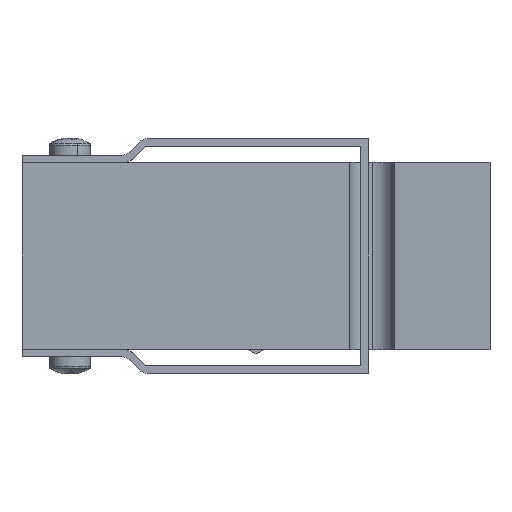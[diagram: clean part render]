
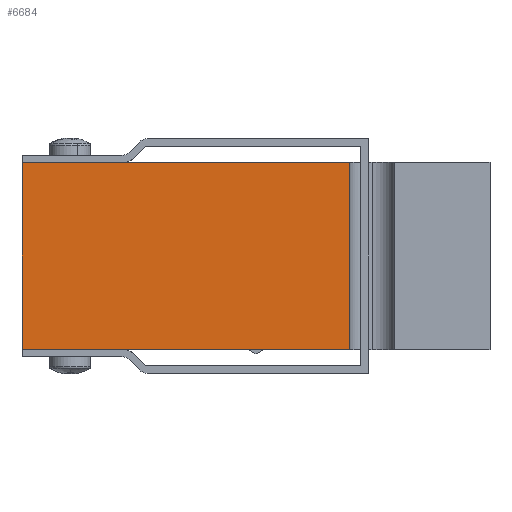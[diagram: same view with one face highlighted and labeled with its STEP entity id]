
A CAD part, left-side view. The second image highlights one B-rep face of the part: STEP entity #6684.
In plain terms, the highlighted planar face has unit normal (-1, 0, 0).
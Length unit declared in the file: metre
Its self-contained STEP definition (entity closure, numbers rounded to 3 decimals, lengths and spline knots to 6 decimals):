
#222 = AXIS2_PLACEMENT_3D ( 'NONE', #4884, #4949, #4857 ) ;
#491 = VERTEX_POINT ( 'NONE', #6142 ) ;
#512 = VERTEX_POINT ( 'NONE', #5820 ) ;
#518 = VERTEX_POINT ( 'NONE', #5844 ) ;
#521 = VERTEX_POINT ( 'NONE', #5989 ) ;
#540 = VERTEX_POINT ( 'NONE', #6192 ) ;
#554 = VERTEX_POINT ( 'NONE', #5862 ) ;
#564 = VERTEX_POINT ( 'NONE', #6091 ) ;
#936 = CARTESIAN_POINT ( 'NONE',  ( 0., 0.0635, 0.02535 ) ) ;
#1539 = AXIS2_PLACEMENT_3D ( 'NONE', #2175, #2176, #2177 ) ;
#1953 = FACE_OUTER_BOUND ( 'NONE', #5331, .T. ) ;
#2163 = PLANE ( 'NONE',  #1539 ) ;
#2175 = CARTESIAN_POINT ( 'NONE',  ( 0., 0., 0.0254 ) ) ;
#2176 = DIRECTION ( 'NONE',  ( 1., 0., 0. ) ) ;
#2177 = DIRECTION ( 'NONE',  ( 0., 0., -1. ) ) ;
#2857 = LINE ( 'NONE', #3426, #2870 ) ;
#2870 = VECTOR ( 'NONE', #3415, 1. ) ;
#2882 = LINE ( 'NONE', #3447, #2893 ) ;
#2893 = VECTOR ( 'NONE', #3461, 1. ) ;
#3415 = DIRECTION ( 'NONE',  ( 0., -1., 0. ) ) ;
#3426 = CARTESIAN_POINT ( 'NONE',  ( 0., 0., 0.00005 ) ) ;
#3447 = CARTESIAN_POINT ( 'NONE',  ( 0., 0., 0.02535 ) ) ;
#3461 = DIRECTION ( 'NONE',  ( 0., -1., 0. ) ) ;
#3567 = AXIS2_PLACEMENT_3D ( 'NONE', #3826, #3827, #3828 ) ;
#3826 = CARTESIAN_POINT ( 'NONE',  ( 0., 0.05, 0.02785 ) ) ;
#3827 = DIRECTION ( 'NONE',  ( -1., 0., 0. ) ) ;
#3828 = DIRECTION ( 'NONE',  ( 0., 0., -1. ) ) ;
#3829 = CARTESIAN_POINT ( 'NONE',  ( 0., 0.019, 0. ) ) ;
#3830 = DIRECTION ( 'NONE',  ( 0., 0., 1. ) ) ;
#3867 = CARTESIAN_POINT ( 'NONE',  ( 0., 0., 0. ) ) ;
#3868 = DIRECTION ( 'NONE',  ( 0., -1., 0. ) ) ;
#3917 = CARTESIAN_POINT ( 'NONE',  ( 0., 0., 0.0254 ) ) ;
#3918 = DIRECTION ( 'NONE',  ( 0., -1., 0. ) ) ;
#4079 = CIRCLE ( 'NONE', #3567, 0.0025 ) ;
#4081 = LINE ( 'NONE', #3829, #4084 ) ;
#4084 = VECTOR ( 'NONE', #3830, 1. ) ;
#4102 = LINE ( 'NONE', #3867, #4104 ) ;
#4104 = VECTOR ( 'NONE', #3868, 1. ) ;
#4132 = LINE ( 'NONE', #3917, #4133 ) ;
#4133 = VECTOR ( 'NONE', #3918, 1. ) ;
#4448 = EDGE_CURVE ( 'NONE', #5761, #540, #5653, .T. ) ;
#4595 = EDGE_CURVE ( 'NONE', #564, #521, #5672, .T. ) ;
#4857 = DIRECTION ( 'NONE',  ( 0., 0., -1. ) ) ;
#4884 = CARTESIAN_POINT ( 'NONE',  ( 0., 0.05, -0.00245 ) ) ;
#4949 = DIRECTION ( 'NONE',  ( 1., 0., 0. ) ) ;
#5331 = EDGE_LOOP ( 'NONE', ( #6302, #6403, #6448, #6272, #6353, #6291, #6336, #6216 ) ) ;
#5653 = LINE ( 'NONE', #6102, #5656 ) ;
#5656 = VECTOR ( 'NONE', #5914, 1. ) ;
#5672 = CIRCLE ( 'NONE', #222, 0.0025 ) ;
#5761 = VERTEX_POINT ( 'NONE', #936 ) ;
#5820 = CARTESIAN_POINT ( 'NONE',  ( 0., 0.049503, 0.0254 ) ) ;
#5844 = CARTESIAN_POINT ( 'NONE',  ( 0., 0.05, 0.02535 ) ) ;
#5862 = CARTESIAN_POINT ( 'NONE',  ( 0., 0.019, 0.0254 ) ) ;
#5914 = DIRECTION ( 'NONE',  ( 0., 0., -1. ) ) ;
#5989 = CARTESIAN_POINT ( 'NONE',  ( 0., 0.049503, 0. ) ) ;
#6091 = CARTESIAN_POINT ( 'NONE',  ( 0., 0.05, 0.00005 ) ) ;
#6102 = CARTESIAN_POINT ( 'NONE',  ( 0., 0.0635, 0.0254 ) ) ;
#6142 = CARTESIAN_POINT ( 'NONE',  ( 0., 0.019, 0. ) ) ;
#6192 = CARTESIAN_POINT ( 'NONE',  ( 0., 0.0635, 0.00005 ) ) ;
#6216 = ORIENTED_EDGE ( 'NONE', *, *, #7381, .F. ) ;
#6272 = ORIENTED_EDGE ( 'NONE', *, *, #4595, .T. ) ;
#6291 = ORIENTED_EDGE ( 'NONE', *, *, #7383, .T. ) ;
#6302 = ORIENTED_EDGE ( 'NONE', *, *, #7304, .F. ) ;
#6336 = ORIENTED_EDGE ( 'NONE', *, *, #7419, .F. ) ;
#6353 = ORIENTED_EDGE ( 'NONE', *, *, #7399, .T. ) ;
#6403 = ORIENTED_EDGE ( 'NONE', *, *, #4448, .T. ) ;
#6448 = ORIENTED_EDGE ( 'NONE', *, *, #7290, .T. ) ;
#6684 = ADVANCED_FACE ( 'NONE', ( #1953 ), #2163, .F. ) ;
#7290 = EDGE_CURVE ( 'NONE', #540, #564, #2857, .T. ) ;
#7304 = EDGE_CURVE ( 'NONE', #5761, #518, #2882, .T. ) ;
#7381 = EDGE_CURVE ( 'NONE', #518, #512, #4079, .T. ) ;
#7383 = EDGE_CURVE ( 'NONE', #491, #554, #4081, .T. ) ;
#7399 = EDGE_CURVE ( 'NONE', #521, #491, #4102, .T. ) ;
#7419 = EDGE_CURVE ( 'NONE', #512, #554, #4132, .T. ) ;
